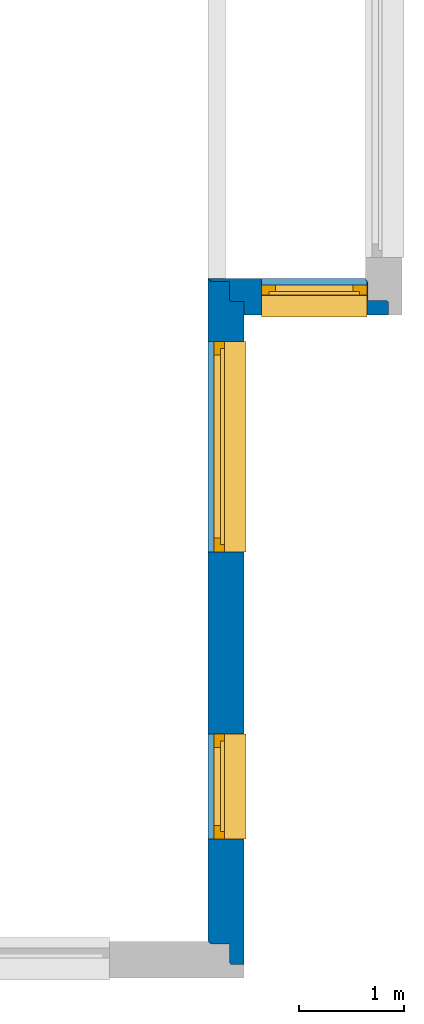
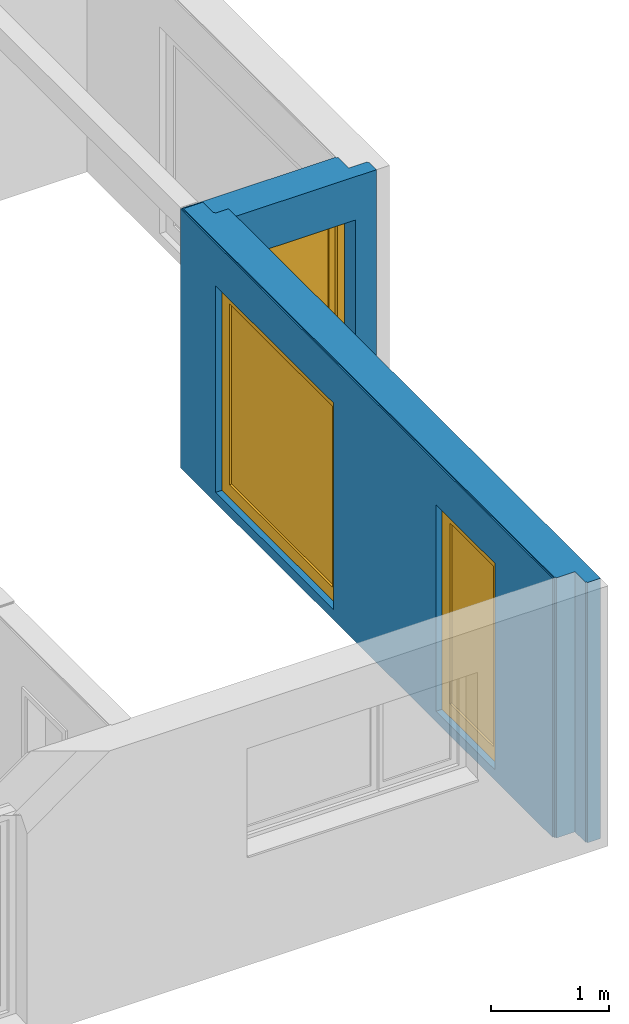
# One storey, part 4 of 6: 3 windows, 2 walls, 3 openings.
"""IFC2X3 building model written with IfcOpenShell, lengths in millimetres."""

from ifc_helpers import new_model, entity, si_unit, converted_unit, derived_unit, money_unit, direction, frame, origin_with_axes, place, context, subcontext, project, spatial, open_shell, faceted_brep, surface_model, material, material_list, type_object, element, fill, save


model = new_model("IFC2X3")

# Units and contexts
model_context = context("Model", 3, precision=0.01, world=origin_with_axes(), true_north=direction((0.0, 1.0)))
body_context = subcontext(model_context, "Body", "Model", "MODEL_VIEW")
ifc_project = project(units=[si_unit("LENGTHUNIT", "METRE", prefix="MILLI"), si_unit("AREAUNIT", "SQUARE_METRE"), si_unit("VOLUMEUNIT", "CUBIC_METRE"), converted_unit("PLANEANGLEUNIT", "DEGREE", entity("IfcPlaneAngleMeasure", 0.0174532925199), si_unit("PLANEANGLEUNIT", "RADIAN"), dimensions=[0, 0, 0, 0, 0, 0, 0]), si_unit("SOLIDANGLEUNIT", "STERADIAN"), money_unit("USD"), converted_unit("TIMEUNIT", "Year", entity("IfcTimeMeasure", 31556926.0), si_unit("TIMEUNIT", "SECOND"), dimensions=[0, 0, 1, 0, 0, 0, 0]), si_unit("MASSUNIT", "GRAM", prefix="KILO"), si_unit("THERMODYNAMICTEMPERATUREUNIT", "DEGREE_CELSIUS"), si_unit("LUMINOUSINTENSITYUNIT", "LUMEN"), si_unit("ENERGYUNIT", "JOULE", prefix="MEGA"), derived_unit("THERMALCONDUCTANCEUNIT", [(si_unit("POWERUNIT", "WATT"), 1), (si_unit("LENGTHUNIT", "METRE"), -1), (si_unit("THERMODYNAMICTEMPERATUREUNIT", "KELVIN"), -1)]), derived_unit("SPECIFICHEATCAPACITYUNIT", [(si_unit("ENERGYUNIT", "JOULE"), 1), (si_unit("MASSUNIT", "GRAM", prefix="KILO"), -1), (si_unit("THERMODYNAMICTEMPERATUREUNIT", "KELVIN"), -1)]), derived_unit("MASSDENSITYUNIT", [(si_unit("MASSUNIT", "GRAM", prefix="KILO"), 1), (si_unit("VOLUMEUNIT", "CUBIC_METRE"), -1)])], contexts=[model_context])

# Site, building, storey
site_placement = place(None, origin_with_axes())
site = spatial("IfcSite", under=ifc_project, at=site_placement, Name="Lokalizacja", CompositionType="ELEMENT")
building_placement = place(site_placement, origin_with_axes())
building = spatial("IfcBuilding", under=site, at=building_placement, Name="Budynek", CompositionType="ELEMENT")
storey_placement = place(building_placement, origin_with_axes())
storey = spatial("IfcBuildingStorey", under=building, at=storey_placement, Name="EG", CompositionType="ELEMENT", Elevation=0.0)

# Wall, opening, window
ifc_material_1 = material(Name="Płyta GK")
ifc_material_2 = material(Name="Płyta OSB")
ifc_material_3 = material(Name="Drewno konstrukcyjne")
ifc_material_4 = material(Name="Płyty styropianowe miękkie")
ifc_material_list = material_list([ifc_material_1, ifc_material_2, ifc_material_3, ifc_material_2, ifc_material_4])
wall_type = type_object("IfcWallType", Name="002- _dan_SZ_345 345", PredefinedType="NOTDEFINED")
wall_1_placement = place(storey_placement, frame((8640.0, -1630.0, -160.0), z_axis=(0.0, 0.0, 1.0), x_axis=(1.0, 0.0, 0.0)))
wall_1 = element("IfcWall", 1, at=wall_1_placement, inside=storey, type_object=wall_type, material=ifc_material_list, Name="SZ1", context=body_context, shape_type="Brep", body=[
    faceted_brep([(1500.0, 0.0, 2678.0), (1500.0, 0.0, 0.0), (13.0, 0.0, 0.0), (13.0, 0.0, 2678.0), (1500.0, -13.0, 2678.0), (1500.0, -13.0, 0.0), (13.0, -13.0, 0.0), (13.0, -13.0, 2678.0)], [[[0, 1, 2, 3]], [[0, 4, 5, 1]], [[1, 5, 6, 2]], [[7, 3, 2, 6]], [[4, 0, 3, 7]], [[4, 7, 6, 5]]]),
    faceted_brep([(1513.0, -25.0, 0.0), (25.0, -25.0, 0.0), (25.0, -13.0, 0.0), (1513.0, -13.0, 0.0), (1513.0, -25.0, 2690.0), (25.0, -25.0, 2690.0), (25.0, -13.0, 2690.0), (1513.0, -13.0, 2690.0)], [[[0, 1, 2, 3]], [[4, 5, 1, 0]], [[2, 1, 5, 6]], [[3, 2, 6, 7]], [[3, 7, 4, 0]], [[7, 6, 5, 4]]]),
    faceted_brep([(1525.0, -205.0, 0.0), (205.0, -205.0, 0.0), (205.0, -25.0, 0.0), (1525.0, -25.0, 0.0), (1525.0, -205.0, 2690.0), (205.0, -205.0, 2690.0), (205.0, -25.0, 2690.0), (1525.0, -25.0, 2690.0)], [[[0, 1, 2, 3]], [[4, 5, 1, 0]], [[2, 1, 5, 6]], [[3, 2, 6, 7]], [[3, 7, 4, 0]], [[7, 6, 5, 4]]]),
    faceted_brep([(1705.0, -217.0, 0.0), (217.0, -217.0, 0.0), (217.0, -205.0, 0.0), (1705.0, -205.0, 0.0), (1705.0, -217.0, 2690.0), (217.0, -217.0, 2690.0), (217.0, -205.0, 2690.0), (1705.0, -205.0, 2690.0)], [[[0, 1, 2, 3]], [[4, 5, 1, 0]], [[2, 1, 5, 6]], [[3, 2, 6, 7]], [[3, 7, 4, 0]], [[7, 6, 5, 4]]]),
    faceted_brep([(1717.0, -345.0, 0.0), (345.0, -345.0, 0.0), (345.0, -217.0, 0.0), (1717.0, -217.0, 0.0), (1717.0, -345.0, 2690.0), (345.0, -345.0, 2690.0), (345.0, -217.0, 2690.0), (1717.0, -217.0, 2690.0)], [[[0, 1, 2, 3]], [[4, 5, 1, 0]], [[2, 1, 5, 6]], [[3, 2, 6, 7]], [[3, 7, 4, 0]], [[7, 6, 5, 4]]]),
])
opening_1_placement = place(wall_1_placement, frame((1012.00000001, 0.0, 107.0), z_axis=(0.0, 0.0, 1.0), x_axis=(1.0, 0.0, 0.0)))
opening_1 = element("IfcOpeningElement", 2, at=opening_1_placement, cuts=wall_1, context=body_context, shape_type="Brep", body=[
    faceted_brep([(-500.0, -157.0, 2135.0), (-500.0, -157.0, 0.0), (-500.0, -690.0, 0.0), (-500.0, -690.0, 2135.0), (500.0, -157.0, 2135.0), (500.0, -157.0, 0.0), (500.0, -690.0, 0.0), (500.0, -690.0, 2135.0)], [[[0, 1, 2, 3]], [[0, 4, 5, 1]], [[1, 5, 6, 2]], [[3, 2, 6, 7]], [[4, 0, 3, 7]], [[5, 4, 7, 6]]]),
    faceted_brep([(-500.0, -157.0, 0.0), (-500.0, -157.0, 2135.0), (-500.0, 345.0, 2135.0), (-500.0, 345.0, 0.0), (500.0, -157.0, 0.0), (500.0, -157.0, 2135.0), (500.0, 345.0, 2135.0), (500.0, 345.0, 0.0)], [[[0, 1, 2, 3]], [[0, 4, 5, 1]], [[1, 5, 6, 2]], [[3, 2, 6, 7]], [[4, 0, 3, 7]], [[5, 4, 7, 6]]]),
])
window_style_1 = type_object("IfcWindowStyle", Name="Okno 24", ConstructionType="NOTDEFINED", OperationType="SINGLE_PANEL", ParameterTakesPrecedence=False, Sizeable=False)
window_1_placement = place(opening_1_placement, frame((-490.0, 0.0, 0.0), z_axis=(0.0, 0.0, 1.0), x_axis=(1.0, 0.0, 0.0)))
window_1 = element("IfcWindow", 3, at=window_1_placement, inside=storey, type_object=window_style_1, OverallHeight=2135.0, OverallWidth=1000.0, context=body_context, shape_type="SurfaceModel", body=[
    surface_model("IfcShellBasedSurfaceModel", [(990.0, -158.0, 50.0), (-10.0, -158.0, 50.0), (-10.0, -158.0, 40.0), (990.0, -158.0, 40.0), (-10.0, -365.0, 28.9361702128), (990.0, -365.0, 28.9361702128), (-10.0, -365.0, 8.93617021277), (990.0, -365.0, 8.93617021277), (-10.0, -355.0, 18.9361702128), (990.0, -355.0, 18.9361702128)], [open_shell([[[0, 1, 2, 3]], [[3, 2, 4, 5]], [[5, 4, 6, 7]], [[7, 6, 8, 9]]])]),
    faceted_brep([(920.1, -61.0, 2065.0), (920.1, -121.0, 2065.0), (920.0, -121.0, 2065.0), (920.0, -157.0, 2065.0), (990.0, -157.0, 2065.0), (990.0, -61.0, 2065.0), (920.1, -61.0, 77.0), (920.1, -121.0, 77.0), (920.0, -121.0, 77.0), (920.0, -157.0, 77.0), (990.0, -157.0, 77.0), (990.0, -61.0, 77.0)], [[[0, 1, 2, 3, 4, 5]], [[1, 0, 6, 7]], [[8, 2, 1, 7]], [[2, 8, 9, 3]], [[4, 3, 9, 10]], [[5, 4, 10, 11]], [[6, 0, 5, 11]], [[7, 6, 11, 10, 9, 8]]]),
    faceted_brep([(60.0, -121.0, 2065.0), (59.9, -121.0, 2065.0), (59.9, -61.0, 2065.0), (-10.0, -61.0, 2065.0), (-10.0, -157.0, 2065.0), (60.0, -157.0, 2065.0), (60.0, -121.0, 77.0), (59.9, -121.0, 77.0), (59.9, -61.0, 77.0), (-10.0, -61.0, 77.0), (-10.0, -157.0, 77.0), (60.0, -157.0, 77.0)], [[[0, 1, 2, 3, 4, 5]], [[1, 0, 6, 7]], [[8, 2, 1, 7]], [[2, 8, 9, 3]], [[9, 10, 4, 3]], [[10, 11, 5, 4]], [[6, 0, 5, 11]], [[7, 6, 11, 10, 9, 8]]]),
    faceted_brep([(60.0, -121.0, 77.0), (59.9, -121.0, 77.0), (59.9, -61.0, 77.0), (-10.0, -61.0, 77.0), (-10.0, -157.0, 77.0), (60.0, -157.0, 77.0), (920.0, -121.0, 77.0), (920.1, -121.0, 77.0), (920.1, -121.0, 76.9), (59.9, -121.0, 76.9), (59.9, -61.0, 76.9), (920.1, -61.0, 76.9), (920.1, -61.0, 77.0), (990.0, -61.0, 77.0), (990.0, -61.0, 0.0), (-10.0, -61.0, 0.0), (-10.0, -157.0, 0.0), (990.0, -157.0, 77.0), (920.0, -157.0, 77.0), (990.0, -157.0, 0.0)], [[[0, 1, 2, 3, 4, 5]], [[1, 0, 6, 7, 8, 9]], [[10, 2, 1, 9]], [[11, 12, 13, 14, 15, 3, 2, 10]], [[15, 16, 4, 3]], [[17, 18, 5, 4, 16, 19]], [[6, 0, 5, 18]], [[7, 6, 18, 17, 13, 12]], [[7, 12, 11, 8]], [[11, 10, 9, 8]], [[13, 17, 19, 14]], [[14, 19, 16, 15]]]),
    faceted_brep([(920.1, -61.0, 2065.0), (920.1, -61.0, 2065.1), (59.9, -61.0, 2065.1), (59.9, -61.0, 2065.0), (-10.0, -61.0, 2065.0), (-10.0, -61.0, 2135.0), (990.0, -61.0, 2135.0), (990.0, -61.0, 2065.0), (920.1, -121.0, 2065.0), (920.1, -121.0, 2065.1), (59.9, -121.0, 2065.1), (59.9, -121.0, 2065.0), (60.0, -121.0, 2065.0), (60.0, -157.0, 2065.0), (-10.0, -157.0, 2065.0), (-10.0, -157.0, 2135.0), (990.0, -157.0, 2135.0), (990.0, -157.0, 2065.0), (920.0, -157.0, 2065.0), (920.0, -121.0, 2065.0)], [[[0, 1, 2, 3, 4, 5, 6, 7]], [[1, 0, 8, 9]], [[2, 1, 9, 10]], [[3, 2, 10, 11]], [[11, 12, 13, 14, 4, 3]], [[4, 14, 15, 5]], [[5, 15, 16, 6]], [[6, 16, 17, 7]], [[8, 0, 7, 17, 18, 19]], [[12, 11, 10, 9, 8, 19]], [[12, 19, 18, 13]], [[14, 13, 18, 17, 16, 15]]]),
    faceted_brep([(860.1, -121.0, 2005.1), (920.1, -121.0, 2005.1), (920.1, -61.0, 2005.1), (860.1, -61.0, 2005.1), (860.1, -121.0, 136.9), (920.1, -121.0, 136.9), (920.1, -61.0, 136.9), (860.1, -61.0, 136.9)], [[[0, 1, 2, 3]], [[0, 4, 5, 1]], [[1, 5, 6, 2]], [[3, 2, 6, 7]], [[4, 0, 3, 7]], [[5, 4, 7, 6]]]),
    faceted_brep([(119.9, -121.0, 136.9), (59.9, -121.0, 136.9), (59.9, -61.0, 136.9), (119.9, -61.0, 136.9), (119.9, -121.0, 2005.1), (59.9, -121.0, 2005.1), (59.9, -61.0, 2005.1), (119.9, -61.0, 2005.1)], [[[0, 1, 2, 3]], [[0, 4, 5, 1]], [[1, 5, 6, 2]], [[3, 2, 6, 7]], [[4, 0, 3, 7]], [[5, 4, 7, 6]]]),
    faceted_brep([(59.9, -121.0, 76.9), (59.9, -121.0, 136.9), (59.9, -61.0, 136.9), (59.9, -61.0, 76.9), (920.1, -121.0, 76.9), (920.1, -121.0, 136.9), (860.1, -121.0, 136.9), (119.9, -121.0, 136.9), (119.9, -61.0, 136.9), (860.1, -61.0, 136.9), (920.1, -61.0, 136.9), (920.1, -61.0, 76.9)], [[[0, 1, 2, 3]], [[0, 4, 5, 6, 7, 1]], [[1, 7, 8, 2]], [[3, 2, 8, 9, 10, 11]], [[4, 0, 3, 11]], [[5, 4, 11, 10]], [[6, 5, 10, 9]], [[7, 6, 9, 8]]]),
    faceted_brep([(920.1, -121.0, 2065.1), (920.1, -121.0, 2005.1), (920.1, -61.0, 2005.1), (920.1, -61.0, 2065.1), (59.9, -121.0, 2065.1), (59.9, -121.0, 2005.1), (119.9, -121.0, 2005.1), (860.1, -121.0, 2005.1), (860.1, -61.0, 2005.1), (119.9, -61.0, 2005.1), (59.9, -61.0, 2005.1), (59.9, -61.0, 2065.1)], [[[0, 1, 2, 3]], [[0, 4, 5, 6, 7, 1]], [[1, 7, 8, 2]], [[3, 2, 8, 9, 10, 11]], [[4, 0, 3, 11]], [[5, 4, 11, 10]], [[6, 5, 10, 9]], [[7, 6, 9, 8]]]),
    surface_model("IfcShellBasedSurfaceModel", [(860.1, -101.0, 136.9), (860.1, -101.0, 2005.1), (119.9, -101.0, 2005.1), (119.9, -101.0, 136.9)], [open_shell([[[0, 1, 2, 3]]])]),
    surface_model("IfcShellBasedSurfaceModel", [(860.1, -81.0, 136.9), (119.9, -81.0, 136.9), (119.9, -81.0, 2005.1), (860.1, -81.0, 2005.1)], [open_shell([[[0, 1, 2, 3]]])]),
])
fill(opening_1, window_1)

# Wall, openings, windows
wall_2_placement = place(storey_placement, frame((8640.0, -7929.99990487, -160.0), z_axis=(0.0, 0.0, 1.0), x_axis=(0.0, 1.0, 0.0)))
wall_2 = element("IfcWall", 4, at=wall_2_placement, inside=storey, type_object=wall_type, material=ifc_material_list, Name="SZ1", context=body_context, shape_type="Brep", body=[
    faceted_brep([(6299.99990487, 0.0, 0.0), (6299.99990487, 0.0, 2678.0), (6299.99990487, -13.0, 2678.0), (6299.99990487, -13.0, 0.0), (0.0, 0.0, 0.0), (0.0, 0.0, 2678.0), (0.0, -13.0, 2678.0), (0.0, -13.0, 0.0)], [[[0, 1, 2, 3]], [[4, 5, 1, 0]], [[5, 6, 2, 1]], [[3, 2, 6, 7]], [[4, 0, 3, 7]], [[7, 6, 5, 4]]]),
    faceted_brep([(6286.99990487, -25.0, 0.0), (-13.0, -25.0, 0.0), (-13.0, -13.0, 0.0), (6286.99990487, -13.0, 0.0), (6286.99990487, -25.0, 2690.0), (-13.0, -25.0, 2690.0), (-13.0, -13.0, 2690.0), (6286.99990487, -13.0, 2690.0)], [[[0, 1, 2, 3]], [[4, 5, 1, 0]], [[2, 1, 5, 6]], [[3, 2, 6, 7]], [[3, 7, 4, 0]], [[7, 6, 5, 4]]]),
    faceted_brep([(6274.99990487, -205.0, 0.0), (-25.0, -205.0, 0.0), (-25.0, -25.0, 0.0), (6274.99990487, -25.0, 0.0), (6274.99990487, -205.0, 2690.0), (-25.0, -205.0, 2690.0), (-25.0, -25.0, 2690.0), (6274.99990487, -25.0, 2690.0)], [[[0, 1, 2, 3]], [[4, 5, 1, 0]], [[2, 1, 5, 6]], [[3, 2, 6, 7]], [[3, 7, 4, 0]], [[7, 6, 5, 4]]]),
    faceted_brep([(6094.99990487, -217.0, 0.0), (-205.0, -217.0, 0.0), (-205.0, -205.0, 0.0), (6094.99990487, -205.0, 0.0), (6094.99990487, -217.0, 2690.0), (-205.0, -217.0, 2690.0), (-205.0, -205.0, 2690.0), (6094.99990487, -205.0, 2690.0)], [[[0, 1, 2, 3]], [[4, 5, 1, 0]], [[2, 1, 5, 6]], [[3, 2, 6, 7]], [[3, 7, 4, 0]], [[7, 6, 5, 4]]]),
    faceted_brep([(6082.99990487, -345.0, 0.0), (-217.0, -345.0, 0.0), (-217.0, -217.0, 0.0), (6082.99990487, -217.0, 0.0), (6082.99990487, -345.0, 2690.0), (-217.0, -345.0, 2690.0), (-217.0, -217.0, 2690.0), (6082.99990487, -217.0, 2690.0)], [[[0, 1, 2, 3]], [[4, 5, 1, 0]], [[2, 1, 5, 6]], [[3, 2, 6, 7]], [[3, 7, 4, 0]], [[7, 6, 5, 4]]]),
])
opening_2_placement = place(wall_2_placement, frame((4704.99992094, 0.0, 107.0), z_axis=(0.0, 0.0, 1.0), x_axis=(1.0, 0.0, 0.0)))
opening_2 = element("IfcOpeningElement", 5, at=opening_2_placement, cuts=wall_2, context=body_context, shape_type="Brep", body=[
    faceted_brep([(-1000.0, -157.0, 2135.0), (-1000.0, -157.0, 0.0), (-1000.0, -690.0, 0.0), (-1000.0, -690.0, 2135.0), (1000.0, -157.0, 2135.0), (1000.0, -157.0, 0.0), (1000.0, -690.0, 0.0), (1000.0, -690.0, 2135.0)], [[[0, 1, 2, 3]], [[0, 4, 5, 1]], [[1, 5, 6, 2]], [[3, 2, 6, 7]], [[4, 0, 3, 7]], [[5, 4, 7, 6]]]),
    faceted_brep([(-1000.0, -157.0, 0.0), (-1000.0, -157.0, 2135.0), (-1000.0, 345.0, 2135.0), (-1000.0, 345.0, 0.0), (1000.0, -157.0, 0.0), (1000.0, -157.0, 2135.0), (1000.0, 345.0, 2135.0), (1000.0, 345.0, 0.0)], [[[0, 1, 2, 3]], [[0, 4, 5, 1]], [[1, 5, 6, 2]], [[3, 2, 6, 7]], [[4, 0, 3, 7]], [[5, 4, 7, 6]]]),
])
opening_3_placement = place(wall_2_placement, frame((1475.00150556, 0.0, 107.0), z_axis=(0.0, 0.0, 1.0), x_axis=(1.0, 0.0, 0.0)))
opening_3 = element("IfcOpeningElement", 6, at=opening_3_placement, cuts=wall_2, context=body_context, shape_type="Brep", body=[
    faceted_brep([(-500.0, -157.0, 2135.0), (-500.0, -157.0, 0.0), (-500.0, -690.0, 0.0), (-500.0, -690.0, 2135.0), (500.0, -157.0, 2135.0), (500.0, -157.0, 0.0), (500.0, -690.0, 0.0), (500.0, -690.0, 2135.0)], [[[0, 1, 2, 3]], [[0, 4, 5, 1]], [[1, 5, 6, 2]], [[3, 2, 6, 7]], [[4, 0, 3, 7]], [[5, 4, 7, 6]]]),
    faceted_brep([(-500.0, -157.0, 0.0), (-500.0, -157.0, 2135.0), (-500.0, 345.0, 2135.0), (-500.0, 345.0, 0.0), (500.0, -157.0, 0.0), (500.0, -157.0, 2135.0), (500.0, 345.0, 2135.0), (500.0, 345.0, 0.0)], [[[0, 1, 2, 3]], [[0, 4, 5, 1]], [[1, 5, 6, 2]], [[3, 2, 6, 7]], [[4, 0, 3, 7]], [[5, 4, 7, 6]]]),
])
window_style_2 = type_object("IfcWindowStyle", Name="Okno 24", ConstructionType="NOTDEFINED", OperationType="SINGLE_PANEL", ParameterTakesPrecedence=False, Sizeable=False)
window_2_placement = place(opening_2_placement, frame((-990.0, 0.0, 0.0), z_axis=(0.0, 0.0, 1.0), x_axis=(1.0, 0.0, 0.0)))
window_2 = element("IfcWindow", 7, at=window_2_placement, inside=storey, type_object=window_style_2, OverallHeight=2135.0, OverallWidth=2000.0, context=body_context, shape_type="SurfaceModel", body=[
    surface_model("IfcShellBasedSurfaceModel", [(1990.0, -158.0, 50.0), (-10.0, -158.0, 50.0), (-10.0, -158.0, 40.0), (1990.0, -158.0, 40.0), (-10.0, -365.0, 28.9361702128), (1990.0, -365.0, 28.9361702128), (-10.0, -365.0, 8.93617021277), (1990.0, -365.0, 8.93617021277), (-10.0, -355.0, 18.9361702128), (1990.0, -355.0, 18.9361702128)], [open_shell([[[0, 1, 2, 3]], [[3, 2, 4, 5]], [[5, 4, 6, 7]], [[7, 6, 8, 9]]])]),
    faceted_brep([(1920.1, -61.0, 2065.0), (1920.1, -121.0, 2065.0), (1920.0, -121.0, 2065.0), (1920.0, -157.0, 2065.0), (1990.0, -157.0, 2065.0), (1990.0, -61.0, 2065.0), (1920.1, -61.0, 77.0), (1920.1, -121.0, 77.0), (1920.0, -121.0, 77.0), (1920.0, -157.0, 77.0), (1990.0, -157.0, 77.0), (1990.0, -61.0, 77.0)], [[[0, 1, 2, 3, 4, 5]], [[1, 0, 6, 7]], [[8, 2, 1, 7]], [[2, 8, 9, 3]], [[4, 3, 9, 10]], [[5, 4, 10, 11]], [[6, 0, 5, 11]], [[7, 6, 11, 10, 9, 8]]]),
    faceted_brep([(60.0, -121.0, 2065.0), (59.9, -121.0, 2065.0), (59.9, -61.0, 2065.0), (-10.0, -61.0, 2065.0), (-10.0, -157.0, 2065.0), (60.0, -157.0, 2065.0), (60.0, -121.0, 77.0), (59.9, -121.0, 77.0), (59.9, -61.0, 77.0), (-10.0, -61.0, 77.0), (-10.0, -157.0, 77.0), (60.0, -157.0, 77.0)], [[[0, 1, 2, 3, 4, 5]], [[1, 0, 6, 7]], [[8, 2, 1, 7]], [[2, 8, 9, 3]], [[9, 10, 4, 3]], [[10, 11, 5, 4]], [[6, 0, 5, 11]], [[7, 6, 11, 10, 9, 8]]]),
    faceted_brep([(60.0, -121.0, 77.0), (59.9, -121.0, 77.0), (59.9, -61.0, 77.0), (-10.0, -61.0, 77.0), (-10.0, -157.0, 77.0), (60.0, -157.0, 77.0), (1920.0, -121.0, 77.0), (1920.1, -121.0, 77.0), (1920.1, -121.0, 76.9), (59.9, -121.0, 76.9), (59.9, -61.0, 76.9), (1920.1, -61.0, 76.9), (1920.1, -61.0, 77.0), (1990.0, -61.0, 77.0), (1990.0, -61.0, 0.0), (-10.0, -61.0, 0.0), (-10.0, -157.0, 0.0), (1990.0, -157.0, 77.0), (1920.0, -157.0, 77.0), (1990.0, -157.0, 0.0)], [[[0, 1, 2, 3, 4, 5]], [[1, 0, 6, 7, 8, 9]], [[10, 2, 1, 9]], [[11, 12, 13, 14, 15, 3, 2, 10]], [[15, 16, 4, 3]], [[17, 18, 5, 4, 16, 19]], [[6, 0, 5, 18]], [[7, 6, 18, 17, 13, 12]], [[7, 12, 11, 8]], [[11, 10, 9, 8]], [[13, 17, 19, 14]], [[14, 19, 16, 15]]]),
    faceted_brep([(1920.1, -61.0, 2065.0), (1920.1, -61.0, 2065.1), (59.9, -61.0, 2065.1), (59.9, -61.0, 2065.0), (-10.0, -61.0, 2065.0), (-10.0, -61.0, 2135.0), (1990.0, -61.0, 2135.0), (1990.0, -61.0, 2065.0), (1920.1, -121.0, 2065.0), (1920.1, -121.0, 2065.1), (59.9, -121.0, 2065.1), (59.9, -121.0, 2065.0), (60.0, -121.0, 2065.0), (60.0, -157.0, 2065.0), (-10.0, -157.0, 2065.0), (-10.0, -157.0, 2135.0), (1990.0, -157.0, 2135.0), (1990.0, -157.0, 2065.0), (1920.0, -157.0, 2065.0), (1920.0, -121.0, 2065.0)], [[[0, 1, 2, 3, 4, 5, 6, 7]], [[1, 0, 8, 9]], [[2, 1, 9, 10]], [[3, 2, 10, 11]], [[11, 12, 13, 14, 4, 3]], [[4, 14, 15, 5]], [[5, 15, 16, 6]], [[6, 16, 17, 7]], [[8, 0, 7, 17, 18, 19]], [[12, 11, 10, 9, 8, 19]], [[12, 19, 18, 13]], [[14, 13, 18, 17, 16, 15]]]),
    faceted_brep([(1860.1, -121.0, 2005.1), (1920.1, -121.0, 2005.1), (1920.1, -61.0, 2005.1), (1860.1, -61.0, 2005.1), (1860.1, -121.0, 136.9), (1920.1, -121.0, 136.9), (1920.1, -61.0, 136.9), (1860.1, -61.0, 136.9)], [[[0, 1, 2, 3]], [[0, 4, 5, 1]], [[1, 5, 6, 2]], [[3, 2, 6, 7]], [[4, 0, 3, 7]], [[5, 4, 7, 6]]]),
    faceted_brep([(119.9, -121.0, 136.9), (59.9, -121.0, 136.9), (59.9, -61.0, 136.9), (119.9, -61.0, 136.9), (119.9, -121.0, 2005.1), (59.9, -121.0, 2005.1), (59.9, -61.0, 2005.1), (119.9, -61.0, 2005.1)], [[[0, 1, 2, 3]], [[0, 4, 5, 1]], [[1, 5, 6, 2]], [[3, 2, 6, 7]], [[4, 0, 3, 7]], [[5, 4, 7, 6]]]),
    faceted_brep([(59.9, -121.0, 76.9), (59.9, -121.0, 136.9), (59.9, -61.0, 136.9), (59.9, -61.0, 76.9), (1920.1, -121.0, 76.9), (1920.1, -121.0, 136.9), (1860.1, -121.0, 136.9), (119.9, -121.0, 136.9), (119.9, -61.0, 136.9), (1860.1, -61.0, 136.9), (1920.1, -61.0, 136.9), (1920.1, -61.0, 76.9)], [[[0, 1, 2, 3]], [[0, 4, 5, 6, 7, 1]], [[1, 7, 8, 2]], [[3, 2, 8, 9, 10, 11]], [[4, 0, 3, 11]], [[5, 4, 11, 10]], [[6, 5, 10, 9]], [[7, 6, 9, 8]]]),
    faceted_brep([(1920.1, -121.0, 2065.1), (1920.1, -121.0, 2005.1), (1920.1, -61.0, 2005.1), (1920.1, -61.0, 2065.1), (59.9, -121.0, 2065.1), (59.9, -121.0, 2005.1), (119.9, -121.0, 2005.1), (1860.1, -121.0, 2005.1), (1860.1, -61.0, 2005.1), (119.9, -61.0, 2005.1), (59.9, -61.0, 2005.1), (59.9, -61.0, 2065.1)], [[[0, 1, 2, 3]], [[0, 4, 5, 6, 7, 1]], [[1, 7, 8, 2]], [[3, 2, 8, 9, 10, 11]], [[4, 0, 3, 11]], [[5, 4, 11, 10]], [[6, 5, 10, 9]], [[7, 6, 9, 8]]]),
    surface_model("IfcShellBasedSurfaceModel", [(1860.1, -101.0, 136.9), (1860.1, -101.0, 2005.1), (119.9, -101.0, 2005.1), (119.9, -101.0, 136.9)], [open_shell([[[0, 1, 2, 3]]])]),
    surface_model("IfcShellBasedSurfaceModel", [(1860.1, -81.0, 136.9), (119.9, -81.0, 136.9), (119.9, -81.0, 2005.1), (1860.1, -81.0, 2005.1)], [open_shell([[[0, 1, 2, 3]]])]),
])
fill(opening_2, window_2)
window_style_3 = type_object("IfcWindowStyle", Name="Okno 24", ConstructionType="NOTDEFINED", OperationType="SINGLE_PANEL", ParameterTakesPrecedence=False, Sizeable=False)
window_3_placement = place(opening_3_placement, frame((-490.0, 0.0, 0.0), z_axis=(0.0, 0.0, 1.0), x_axis=(1.0, 0.0, 0.0)))
window_3 = element("IfcWindow", 8, at=window_3_placement, inside=storey, type_object=window_style_3, OverallHeight=2135.0, OverallWidth=1000.0, context=body_context, shape_type="SurfaceModel", body=[
    surface_model("IfcShellBasedSurfaceModel", [(990.0, -158.0, 50.0), (-10.0, -158.0, 50.0), (-10.0, -158.0, 40.0), (990.0, -158.0, 40.0), (-10.0, -365.0, 28.9361702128), (990.0, -365.0, 28.9361702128), (-10.0, -365.0, 8.93617021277), (990.0, -365.0, 8.93617021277), (-10.0, -355.0, 18.9361702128), (990.0, -355.0, 18.9361702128)], [open_shell([[[0, 1, 2, 3]], [[3, 2, 4, 5]], [[5, 4, 6, 7]], [[7, 6, 8, 9]]])]),
    faceted_brep([(920.1, -61.0, 2065.0), (920.1, -121.0, 2065.0), (920.0, -121.0, 2065.0), (920.0, -157.0, 2065.0), (990.0, -157.0, 2065.0), (990.0, -61.0, 2065.0), (920.1, -61.0, 77.0), (920.1, -121.0, 77.0), (920.0, -121.0, 77.0), (920.0, -157.0, 77.0), (990.0, -157.0, 77.0), (990.0, -61.0, 77.0)], [[[0, 1, 2, 3, 4, 5]], [[1, 0, 6, 7]], [[8, 2, 1, 7]], [[2, 8, 9, 3]], [[4, 3, 9, 10]], [[5, 4, 10, 11]], [[6, 0, 5, 11]], [[7, 6, 11, 10, 9, 8]]]),
    faceted_brep([(60.0, -121.0, 2065.0), (59.9, -121.0, 2065.0), (59.9, -61.0, 2065.0), (-10.0, -61.0, 2065.0), (-10.0, -157.0, 2065.0), (60.0, -157.0, 2065.0), (60.0, -121.0, 77.0), (59.9, -121.0, 77.0), (59.9, -61.0, 77.0), (-10.0, -61.0, 77.0), (-10.0, -157.0, 77.0), (60.0, -157.0, 77.0)], [[[0, 1, 2, 3, 4, 5]], [[1, 0, 6, 7]], [[8, 2, 1, 7]], [[2, 8, 9, 3]], [[9, 10, 4, 3]], [[10, 11, 5, 4]], [[6, 0, 5, 11]], [[7, 6, 11, 10, 9, 8]]]),
    faceted_brep([(60.0, -121.0, 77.0), (59.9, -121.0, 77.0), (59.9, -61.0, 77.0), (-10.0, -61.0, 77.0), (-10.0, -157.0, 77.0), (60.0, -157.0, 77.0), (920.0, -121.0, 77.0), (920.1, -121.0, 77.0), (920.1, -121.0, 76.9), (59.9, -121.0, 76.9), (59.9, -61.0, 76.9), (920.1, -61.0, 76.9), (920.1, -61.0, 77.0), (990.0, -61.0, 77.0), (990.0, -61.0, 0.0), (-10.0, -61.0, 0.0), (-10.0, -157.0, 0.0), (990.0, -157.0, 77.0), (920.0, -157.0, 77.0), (990.0, -157.0, 0.0)], [[[0, 1, 2, 3, 4, 5]], [[1, 0, 6, 7, 8, 9]], [[10, 2, 1, 9]], [[11, 12, 13, 14, 15, 3, 2, 10]], [[15, 16, 4, 3]], [[17, 18, 5, 4, 16, 19]], [[6, 0, 5, 18]], [[7, 6, 18, 17, 13, 12]], [[7, 12, 11, 8]], [[11, 10, 9, 8]], [[13, 17, 19, 14]], [[14, 19, 16, 15]]]),
    faceted_brep([(920.1, -61.0, 2065.0), (920.1, -61.0, 2065.1), (59.9, -61.0, 2065.1), (59.9, -61.0, 2065.0), (-10.0, -61.0, 2065.0), (-10.0, -61.0, 2135.0), (990.0, -61.0, 2135.0), (990.0, -61.0, 2065.0), (920.1, -121.0, 2065.0), (920.1, -121.0, 2065.1), (59.9, -121.0, 2065.1), (59.9, -121.0, 2065.0), (60.0, -121.0, 2065.0), (60.0, -157.0, 2065.0), (-10.0, -157.0, 2065.0), (-10.0, -157.0, 2135.0), (990.0, -157.0, 2135.0), (990.0, -157.0, 2065.0), (920.0, -157.0, 2065.0), (920.0, -121.0, 2065.0)], [[[0, 1, 2, 3, 4, 5, 6, 7]], [[1, 0, 8, 9]], [[2, 1, 9, 10]], [[3, 2, 10, 11]], [[11, 12, 13, 14, 4, 3]], [[4, 14, 15, 5]], [[5, 15, 16, 6]], [[6, 16, 17, 7]], [[8, 0, 7, 17, 18, 19]], [[12, 11, 10, 9, 8, 19]], [[12, 19, 18, 13]], [[14, 13, 18, 17, 16, 15]]]),
    faceted_brep([(860.1, -121.0, 2005.1), (920.1, -121.0, 2005.1), (920.1, -61.0, 2005.1), (860.1, -61.0, 2005.1), (860.1, -121.0, 136.9), (920.1, -121.0, 136.9), (920.1, -61.0, 136.9), (860.1, -61.0, 136.9)], [[[0, 1, 2, 3]], [[0, 4, 5, 1]], [[1, 5, 6, 2]], [[3, 2, 6, 7]], [[4, 0, 3, 7]], [[5, 4, 7, 6]]]),
    faceted_brep([(119.9, -121.0, 136.9), (59.9, -121.0, 136.9), (59.9, -61.0, 136.9), (119.9, -61.0, 136.9), (119.9, -121.0, 2005.1), (59.9, -121.0, 2005.1), (59.9, -61.0, 2005.1), (119.9, -61.0, 2005.1)], [[[0, 1, 2, 3]], [[0, 4, 5, 1]], [[1, 5, 6, 2]], [[3, 2, 6, 7]], [[4, 0, 3, 7]], [[5, 4, 7, 6]]]),
    faceted_brep([(59.9, -121.0, 76.9), (59.9, -121.0, 136.9), (59.9, -61.0, 136.9), (59.9, -61.0, 76.9), (920.1, -121.0, 76.9), (920.1, -121.0, 136.9), (860.1, -121.0, 136.9), (119.9, -121.0, 136.9), (119.9, -61.0, 136.9), (860.1, -61.0, 136.9), (920.1, -61.0, 136.9), (920.1, -61.0, 76.9)], [[[0, 1, 2, 3]], [[0, 4, 5, 6, 7, 1]], [[1, 7, 8, 2]], [[3, 2, 8, 9, 10, 11]], [[4, 0, 3, 11]], [[5, 4, 11, 10]], [[6, 5, 10, 9]], [[7, 6, 9, 8]]]),
    faceted_brep([(920.1, -121.0, 2065.1), (920.1, -121.0, 2005.1), (920.1, -61.0, 2005.1), (920.1, -61.0, 2065.1), (59.9, -121.0, 2065.1), (59.9, -121.0, 2005.1), (119.9, -121.0, 2005.1), (860.1, -121.0, 2005.1), (860.1, -61.0, 2005.1), (119.9, -61.0, 2005.1), (59.9, -61.0, 2005.1), (59.9, -61.0, 2065.1)], [[[0, 1, 2, 3]], [[0, 4, 5, 6, 7, 1]], [[1, 7, 8, 2]], [[3, 2, 8, 9, 10, 11]], [[4, 0, 3, 11]], [[5, 4, 11, 10]], [[6, 5, 10, 9]], [[7, 6, 9, 8]]]),
    surface_model("IfcShellBasedSurfaceModel", [(860.1, -101.0, 136.9), (860.1, -101.0, 2005.1), (119.9, -101.0, 2005.1), (119.9, -101.0, 136.9)], [open_shell([[[0, 1, 2, 3]]])]),
    surface_model("IfcShellBasedSurfaceModel", [(860.1, -81.0, 136.9), (119.9, -81.0, 136.9), (119.9, -81.0, 2005.1), (860.1, -81.0, 2005.1)], [open_shell([[[0, 1, 2, 3]]])]),
])
fill(opening_3, window_3)

save(model, "model.ifc")
